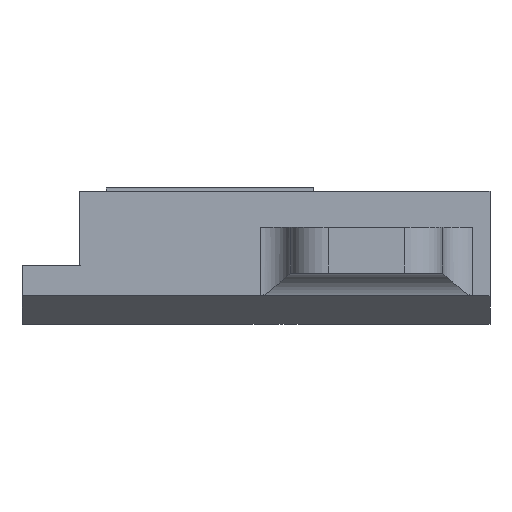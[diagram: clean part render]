
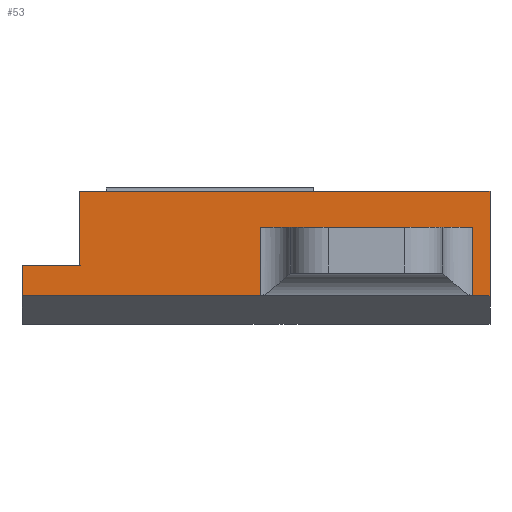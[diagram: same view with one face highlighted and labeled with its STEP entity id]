
A CAD part, front view. The second image highlights one B-rep face of the part: STEP entity #53.
In plain terms, the highlighted planar face has unit normal (0, -1, 0).
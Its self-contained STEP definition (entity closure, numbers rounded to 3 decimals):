
#53=ADVANCED_FACE('',(#93),#95,.T.);
#93=FACE_BOUND('',#94,.T.);
#94=EDGE_LOOP('',(#379,#380,#381,#382,#383,#384,#385,#386,#387,#388));
#95=PLANE('',#96);
#96=AXIS2_PLACEMENT_3D('',#97,#98,#99);
#97=CARTESIAN_POINT('',(-1.35,-0.16,-6.18));
#98=DIRECTION('',(0.,-1.,0.));
#99=DIRECTION('',(0.,0.,1.));
#379=ORIENTED_EDGE('',*,*,#593,.T.);
#380=ORIENTED_EDGE('',*,*,#594,.F.);
#381=ORIENTED_EDGE('',*,*,#595,.F.);
#382=ORIENTED_EDGE('',*,*,#596,.T.);
#383=ORIENTED_EDGE('',*,*,#597,.F.);
#384=ORIENTED_EDGE('',*,*,#598,.F.);
#385=ORIENTED_EDGE('',*,*,#599,.T.);
#386=ORIENTED_EDGE('',*,*,#600,.T.);
#387=ORIENTED_EDGE('',*,*,#601,.T.);
#388=ORIENTED_EDGE('',*,*,#602,.T.);
#593=EDGE_CURVE('',#700,#701,#702,.T.);
#594=EDGE_CURVE('',#703,#701,#704,.T.);
#595=EDGE_CURVE('',#705,#703,#706,.T.);
#596=EDGE_CURVE('',#705,#707,#708,.T.);
#597=EDGE_CURVE('',#709,#707,#710,.T.);
#598=EDGE_CURVE('',#711,#709,#712,.T.);
#599=EDGE_CURVE('',#711,#713,#714,.T.);
#600=EDGE_CURVE('',#713,#715,#716,.T.);
#601=EDGE_CURVE('',#715,#717,#718,.T.);
#602=EDGE_CURVE('',#717,#700,#719,.T.);
#700=VERTEX_POINT('',#877);
#701=VERTEX_POINT('',#878);
#702=LINE('',#879,#880);
#703=VERTEX_POINT('',#882);
#704=LINE('',#883,#884);
#705=VERTEX_POINT('',#886);
#706=LINE('',#887,#888);
#707=VERTEX_POINT('',#890);
#708=LINE('',#891,#892);
#709=VERTEX_POINT('',#894);
#710=LINE('',#895,#896);
#711=VERTEX_POINT('',#898);
#712=LINE('',#899,#900);
#713=VERTEX_POINT('',#902);
#714=LINE('',#903,#904);
#715=VERTEX_POINT('',#906);
#716=LINE('',#907,#908);
#717=VERTEX_POINT('',#910);
#718=LINE('',#911,#912);
#719=LINE('',#914,#915);
#877=CARTESIAN_POINT('',(-14.364,-0.16,-8.73));
#878=CARTESIAN_POINT('',(-14.364,-0.16,-9.525));
#879=CARTESIAN_POINT('',(-14.364,-0.16,-8.73));
#880=VECTOR('',#881,1.);
#881=DIRECTION('',(0.,0.,-1.));
#882=CARTESIAN_POINT('',(-8.1,-0.16,-9.525));
#883=CARTESIAN_POINT('',(-8.1,-0.16,-9.525));
#884=VECTOR('',#885,1.);
#885=DIRECTION('',(-1.,0.,0.));
#886=CARTESIAN_POINT('',(-8.1,-0.16,-7.73));
#887=CARTESIAN_POINT('',(-8.1,-0.16,-7.73));
#888=VECTOR('',#889,1.);
#889=DIRECTION('',(0.,0.,-1.));
#890=CARTESIAN_POINT('',(-2.5,-0.16,-7.73));
#891=CARTESIAN_POINT('',(-8.1,-0.16,-7.73));
#892=VECTOR('',#893,1.);
#893=DIRECTION('',(1.,0.,0.));
#894=CARTESIAN_POINT('',(-2.5,-0.16,-9.525));
#895=CARTESIAN_POINT('',(-2.5,-0.16,-9.525));
#896=VECTOR('',#897,1.);
#897=DIRECTION('',(0.,0.,1.));
#898=CARTESIAN_POINT('',(-2.05,-0.16,-9.525));
#899=CARTESIAN_POINT('',(-2.05,-0.16,-9.525));
#900=VECTOR('',#901,1.);
#901=DIRECTION('',(-1.,0.,0.));
#902=CARTESIAN_POINT('',(-2.05,-0.16,-6.78));
#903=CARTESIAN_POINT('',(-2.05,-0.16,-9.525));
#904=VECTOR('',#905,1.);
#905=DIRECTION('',(0.,0.,1.));
#906=CARTESIAN_POINT('',(-12.85,-0.16,-6.78));
#907=CARTESIAN_POINT('',(-2.05,-0.16,-6.78));
#908=VECTOR('',#909,1.);
#909=DIRECTION('',(-1.,0.,0.));
#910=CARTESIAN_POINT('',(-12.85,-0.16,-8.73));
#911=CARTESIAN_POINT('',(-12.85,-0.16,-6.78));
#912=VECTOR('',#913,1.);
#913=DIRECTION('',(0.,0.,-1.));
#914=CARTESIAN_POINT('',(-12.85,-0.16,-8.73));
#915=VECTOR('',#916,1.);
#916=DIRECTION('',(-1.,0.,0.));
